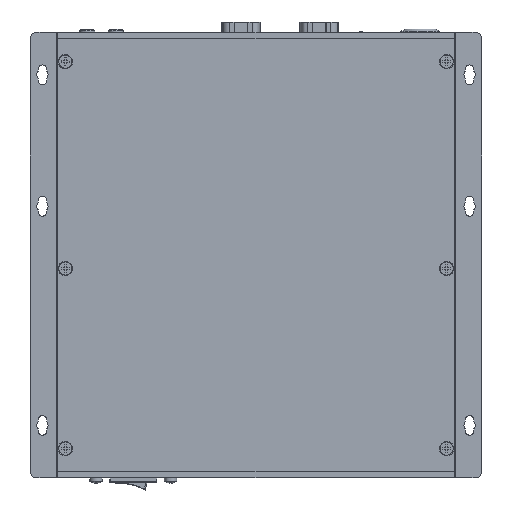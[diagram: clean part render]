
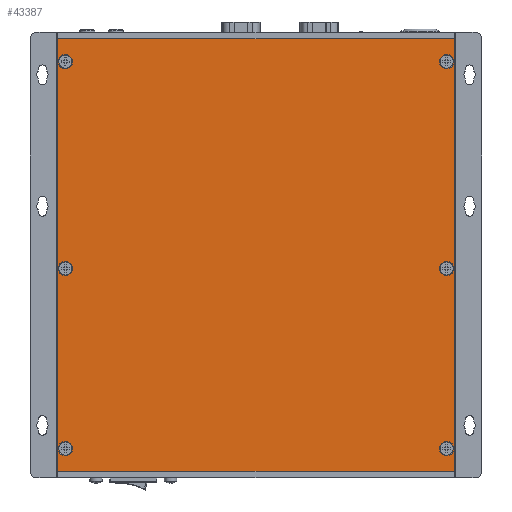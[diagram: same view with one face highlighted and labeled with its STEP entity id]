
A CAD part, front view. The second image highlights one B-rep face of the part: STEP entity #43387.
In plain terms, the highlighted planar face has unit normal (0, -1, 0).
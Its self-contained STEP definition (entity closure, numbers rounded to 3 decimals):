
#1767=CARTESIAN_POINT('',(97.,-25.4,-188.8));
#1768=DIRECTION('',(0.,-1.,0.));
#1769=DIRECTION('',(1.,0.,0.));
#1770=AXIS2_PLACEMENT_3D('',#1767,#1768,#1769);
#1772=CARTESIAN_POINT('',(97.,-25.4,-188.8));
#1773=DIRECTION('',(0.,-1.,0.));
#1774=DIRECTION('',(-1.,0.,0.));
#1775=AXIS2_PLACEMENT_3D('',#1772,#1773,#1774);
#1777=CARTESIAN_POINT('',(-77.,-25.4,-12.2));
#1778=DIRECTION('',(0.,-1.,0.));
#1779=DIRECTION('',(1.,0.,0.));
#1780=AXIS2_PLACEMENT_3D('',#1777,#1778,#1779);
#1782=CARTESIAN_POINT('',(-77.,-25.4,-12.2));
#1783=DIRECTION('',(0.,-1.,0.));
#1784=DIRECTION('',(-1.,0.,0.));
#1785=AXIS2_PLACEMENT_3D('',#1782,#1783,#1784);
#1787=CARTESIAN_POINT('',(97.,-25.4,-12.2));
#1788=DIRECTION('',(0.,-1.,0.));
#1789=DIRECTION('',(1.,0.,0.));
#1790=AXIS2_PLACEMENT_3D('',#1787,#1788,#1789);
#1792=CARTESIAN_POINT('',(97.,-25.4,-12.2));
#1793=DIRECTION('',(0.,-1.,0.));
#1794=DIRECTION('',(-1.,0.,0.));
#1795=AXIS2_PLACEMENT_3D('',#1792,#1793,#1794);
#1797=CARTESIAN_POINT('',(97.,-25.4,-106.6));
#1798=DIRECTION('',(0.,-1.,0.));
#1799=DIRECTION('',(1.,0.,0.));
#1800=AXIS2_PLACEMENT_3D('',#1797,#1798,#1799);
#1802=CARTESIAN_POINT('',(97.,-25.4,-106.6));
#1803=DIRECTION('',(0.,-1.,0.));
#1804=DIRECTION('',(-1.,0.,0.));
#1805=AXIS2_PLACEMENT_3D('',#1802,#1803,#1804);
#1807=CARTESIAN_POINT('',(-77.,-25.4,-188.8));
#1808=DIRECTION('',(0.,-1.,0.));
#1809=DIRECTION('',(1.,0.,0.));
#1810=AXIS2_PLACEMENT_3D('',#1807,#1808,#1809);
#1812=CARTESIAN_POINT('',(-77.,-25.4,-188.8));
#1813=DIRECTION('',(0.,-1.,0.));
#1814=DIRECTION('',(-1.,0.,0.));
#1815=AXIS2_PLACEMENT_3D('',#1812,#1813,#1814);
#1817=CARTESIAN_POINT('',(-77.,-25.4,-106.6));
#1818=DIRECTION('',(0.,-1.,0.));
#1819=DIRECTION('',(1.,0.,0.));
#1820=AXIS2_PLACEMENT_3D('',#1817,#1818,#1819);
#1822=CARTESIAN_POINT('',(-77.,-25.4,-106.6));
#1823=DIRECTION('',(0.,-1.,0.));
#1824=DIRECTION('',(-1.,0.,0.));
#1825=AXIS2_PLACEMENT_3D('',#1822,#1823,#1824);
#1827=DIRECTION('',(-1.,0.,0.));
#1828=VECTOR('',#1827,181.2);
#1829=CARTESIAN_POINT('',(100.6,-25.4,-199.2));
#1830=LINE('',#1829,#1828);
#1831=DIRECTION('',(0.,0.,-1.));
#1832=VECTOR('',#1831,197.4);
#1833=CARTESIAN_POINT('',(-80.6,-25.4,-1.8));
#1834=LINE('',#1833,#1832);
#1835=DIRECTION('',(0.,0.,1.));
#1836=VECTOR('',#1835,197.4);
#1837=CARTESIAN_POINT('',(100.6,-25.4,-199.2));
#1838=LINE('',#1837,#1836);
#5309=DIRECTION('',(1.,0.,0.));
#5310=VECTOR('',#5309,181.2);
#5311=CARTESIAN_POINT('',(-80.6,-25.4,-1.8));
#5312=LINE('',#5311,#5310);
#34771=CARTESIAN_POINT('',(100.25,-25.4,-188.8));
#34772=CARTESIAN_POINT('',(93.75,-25.4,-188.8));
#34773=VERTEX_POINT('',#34771);
#34774=VERTEX_POINT('',#34772);
#34775=CARTESIAN_POINT('',(-73.75,-25.4,-12.2));
#34776=CARTESIAN_POINT('',(-80.25,-25.4,-12.2));
#34777=VERTEX_POINT('',#34775);
#34778=VERTEX_POINT('',#34776);
#34779=CARTESIAN_POINT('',(100.25,-25.4,-12.2));
#34780=CARTESIAN_POINT('',(93.75,-25.4,-12.2));
#34781=VERTEX_POINT('',#34779);
#34782=VERTEX_POINT('',#34780);
#34783=CARTESIAN_POINT('',(100.25,-25.4,-106.6));
#34784=CARTESIAN_POINT('',(93.75,-25.4,-106.6));
#34785=VERTEX_POINT('',#34783);
#34786=VERTEX_POINT('',#34784);
#34787=CARTESIAN_POINT('',(-73.75,-25.4,-188.8));
#34788=CARTESIAN_POINT('',(-80.25,-25.4,-188.8));
#34789=VERTEX_POINT('',#34787);
#34790=VERTEX_POINT('',#34788);
#34791=CARTESIAN_POINT('',(-73.75,-25.4,-106.6));
#34792=CARTESIAN_POINT('',(-80.25,-25.4,-106.6));
#34793=VERTEX_POINT('',#34791);
#34794=VERTEX_POINT('',#34792);
#37992=CARTESIAN_POINT('',(-80.6,-25.4,-1.8));
#37993=CARTESIAN_POINT('',(100.6,-25.4,-1.8));
#37994=VERTEX_POINT('',#37992);
#37995=VERTEX_POINT('',#37993);
#39912=CARTESIAN_POINT('',(100.6,-25.4,-199.2));
#39913=CARTESIAN_POINT('',(-80.6,-25.4,-199.2));
#39914=VERTEX_POINT('',#39912);
#39915=VERTEX_POINT('',#39913);
#43337=CARTESIAN_POINT('',(0.,-25.4,1.2));
#43338=DIRECTION('',(0.,-1.,0.));
#43339=DIRECTION('',(-1.,0.,0.));
#43340=AXIS2_PLACEMENT_3D('',#43337,#43338,#43339);
#43341=PLANE('',#43340);
#43343=ORIENTED_EDGE('',*,*,#43342,.T.);
#43344=ORIENTED_EDGE('',*,*,#43088,.F.);
#43346=ORIENTED_EDGE('',*,*,#43345,.T.);
#43348=ORIENTED_EDGE('',*,*,#43347,.F.);
#43349=EDGE_LOOP('',(#43343,#43344,#43346,#43348));
#43350=FACE_OUTER_BOUND('',#43349,.F.);
#43352=ORIENTED_EDGE('',*,*,#43351,.T.);
#43354=ORIENTED_EDGE('',*,*,#43353,.T.);
#43355=EDGE_LOOP('',(#43352,#43354));
#43356=FACE_BOUND('',#43355,.F.);
#43358=ORIENTED_EDGE('',*,*,#43357,.T.);
#43360=ORIENTED_EDGE('',*,*,#43359,.T.);
#43361=EDGE_LOOP('',(#43358,#43360));
#43362=FACE_BOUND('',#43361,.F.);
#43364=ORIENTED_EDGE('',*,*,#43363,.T.);
#43366=ORIENTED_EDGE('',*,*,#43365,.T.);
#43367=EDGE_LOOP('',(#43364,#43366));
#43368=FACE_BOUND('',#43367,.F.);
#43370=ORIENTED_EDGE('',*,*,#43369,.T.);
#43372=ORIENTED_EDGE('',*,*,#43371,.T.);
#43373=EDGE_LOOP('',(#43370,#43372));
#43374=FACE_BOUND('',#43373,.F.);
#43376=ORIENTED_EDGE('',*,*,#43375,.T.);
#43378=ORIENTED_EDGE('',*,*,#43377,.T.);
#43379=EDGE_LOOP('',(#43376,#43378));
#43380=FACE_BOUND('',#43379,.F.);
#43382=ORIENTED_EDGE('',*,*,#43381,.T.);
#43384=ORIENTED_EDGE('',*,*,#43383,.T.);
#43385=EDGE_LOOP('',(#43382,#43384));
#43386=FACE_BOUND('',#43385,.F.);
#43387=ADVANCED_FACE('',(#43350,#43356,#43362,#43368,#43374,#43380,#43386),
#43341,.T.);
#1771=CIRCLE('',#1770,3.25);
#1776=CIRCLE('',#1775,3.25);
#1781=CIRCLE('',#1780,3.25);
#1786=CIRCLE('',#1785,3.25);
#1791=CIRCLE('',#1790,3.25);
#1796=CIRCLE('',#1795,3.25);
#1801=CIRCLE('',#1800,3.25);
#1806=CIRCLE('',#1805,3.25);
#1811=CIRCLE('',#1810,3.25);
#1816=CIRCLE('',#1815,3.25);
#1821=CIRCLE('',#1820,3.25);
#1826=CIRCLE('',#1825,3.25);
#43088=EDGE_CURVE('',#37994,#39915,#1834,.T.);
#43342=EDGE_CURVE('',#39914,#39915,#1830,.T.);
#43345=EDGE_CURVE('',#37994,#37995,#5312,.T.);
#43347=EDGE_CURVE('',#39914,#37995,#1838,.T.);
#43351=EDGE_CURVE('',#34777,#34778,#1781,.T.);
#43353=EDGE_CURVE('',#34778,#34777,#1786,.T.);
#43357=EDGE_CURVE('',#34781,#34782,#1791,.T.);
#43359=EDGE_CURVE('',#34782,#34781,#1796,.T.);
#43363=EDGE_CURVE('',#34785,#34786,#1801,.T.);
#43365=EDGE_CURVE('',#34786,#34785,#1806,.T.);
#43369=EDGE_CURVE('',#34789,#34790,#1811,.T.);
#43371=EDGE_CURVE('',#34790,#34789,#1816,.T.);
#43375=EDGE_CURVE('',#34793,#34794,#1821,.T.);
#43377=EDGE_CURVE('',#34794,#34793,#1826,.T.);
#43381=EDGE_CURVE('',#34773,#34774,#1771,.T.);
#43383=EDGE_CURVE('',#34774,#34773,#1776,.T.);
